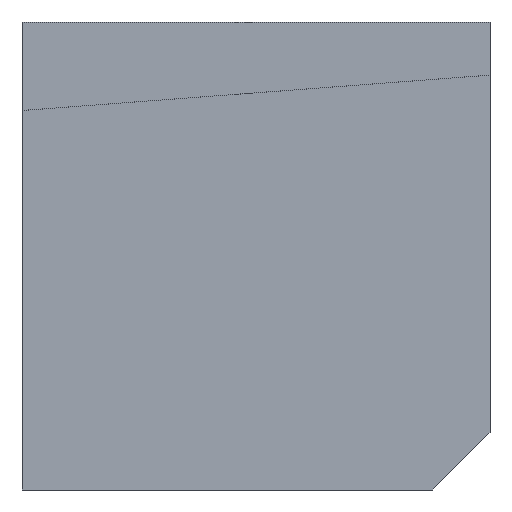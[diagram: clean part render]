
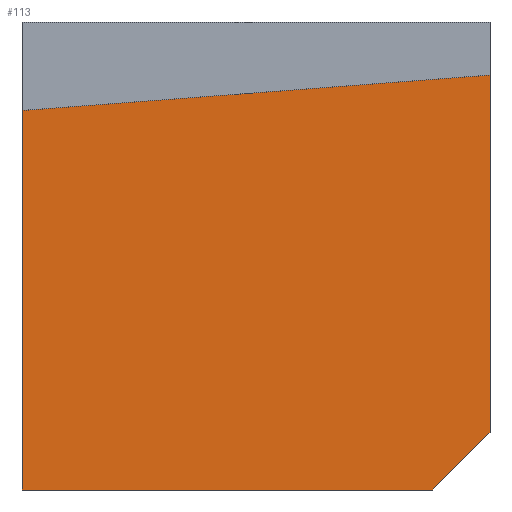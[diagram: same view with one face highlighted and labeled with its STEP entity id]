
A CAD part, left-side view. The second image highlights one B-rep face of the part: STEP entity #113.
In plain terms, the highlighted planar face has unit normal (-1, 0, 0).
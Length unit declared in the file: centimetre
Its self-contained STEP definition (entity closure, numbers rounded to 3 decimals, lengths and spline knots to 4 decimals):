
#6 = EDGE_CURVE ( 'NONE', #300, #264, #137, .T. ) ;
#17 = CARTESIAN_POINT ( 'NONE',  ( 0., 122.8234, 0. ) ) ;
#26 = LINE ( 'NONE', #126, #110 ) ;
#36 = CARTESIAN_POINT ( 'NONE',  ( 0., 0., 1000. ) ) ;
#42 = AXIS2_PLACEMENT_3D ( 'NONE', #165, #64, #141 ) ;
#54 = DIRECTION ( 'NONE',  ( 0., -0.997, 0.075 ) ) ;
#64 = DIRECTION ( 'NONE',  ( 1., 0., 0. ) ) ;
#73 = VERTEX_POINT ( 'NONE', #89 ) ;
#88 = CARTESIAN_POINT ( 'NONE',  ( 0., 0., 122.8234 ) ) ;
#89 = CARTESIAN_POINT ( 'NONE',  ( 0., 1000., 0. ) ) ;
#107 = EDGE_LOOP ( 'NONE', ( #195, #114, #159, #317, #251 ) ) ;
#110 = VECTOR ( 'NONE', #310, 100. ) ;
#112 = PLANE ( 'NONE',  #42 ) ;
#113 = ADVANCED_FACE ( 'NONE', ( #270 ), #112, .F. ) ;
#114 = ORIENTED_EDGE ( 'NONE', *, *, #335, .F. ) ;
#116 = DIRECTION ( 'NONE',  ( 0., -0.707, 0.707 ) ) ;
#118 = VECTOR ( 'NONE', #116, 100. ) ;
#126 = CARTESIAN_POINT ( 'NONE',  ( 0., 1000., 0. ) ) ;
#131 = EDGE_CURVE ( 'NONE', #143, #264, #193, .T. ) ;
#133 = VECTOR ( 'NONE', #268, 100. ) ;
#137 = LINE ( 'NONE', #36, #133 ) ;
#141 = DIRECTION ( 'NONE',  ( 0., 0., -1. ) ) ;
#143 = VERTEX_POINT ( 'NONE', #17 ) ;
#149 = CARTESIAN_POINT ( 'NONE',  ( 0., 0., 886.5268 ) ) ;
#154 = VECTOR ( 'NONE', #284, 100. ) ;
#159 = ORIENTED_EDGE ( 'NONE', *, *, #212, .T. ) ;
#161 = CARTESIAN_POINT ( 'NONE',  ( 0., 1000., 810.8376 ) ) ;
#165 = CARTESIAN_POINT ( 'NONE',  ( 0., 1000., 1000. ) ) ;
#169 = VECTOR ( 'NONE', #54, 100. ) ;
#174 = CARTESIAN_POINT ( 'NONE',  ( 0., 1000., 810.8376 ) ) ;
#193 = LINE ( 'NONE', #88, #118 ) ;
#195 = ORIENTED_EDGE ( 'NONE', *, *, #6, .F. ) ;
#197 = CARTESIAN_POINT ( 'NONE',  ( 0., 1000., 1000. ) ) ;
#212 = EDGE_CURVE ( 'NONE', #297, #73, #253, .T. ) ;
#235 = LINE ( 'NONE', #161, #169 ) ;
#251 = ORIENTED_EDGE ( 'NONE', *, *, #131, .T. ) ;
#253 = LINE ( 'NONE', #197, #154 ) ;
#264 = VERTEX_POINT ( 'NONE', #278 ) ;
#268 = DIRECTION ( 'NONE',  ( 0., 0., -1. ) ) ;
#270 = FACE_OUTER_BOUND ( 'NONE', #107, .T. ) ;
#278 = CARTESIAN_POINT ( 'NONE',  ( 0., 0., 122.8234 ) ) ;
#284 = DIRECTION ( 'NONE',  ( 0., 0., -1. ) ) ;
#292 = EDGE_CURVE ( 'NONE', #73, #143, #26, .T. ) ;
#297 = VERTEX_POINT ( 'NONE', #174 ) ;
#300 = VERTEX_POINT ( 'NONE', #149 ) ;
#310 = DIRECTION ( 'NONE',  ( 0., -1., 0. ) ) ;
#317 = ORIENTED_EDGE ( 'NONE', *, *, #292, .T. ) ;
#335 = EDGE_CURVE ( 'NONE', #297, #300, #235, .T. ) ;
